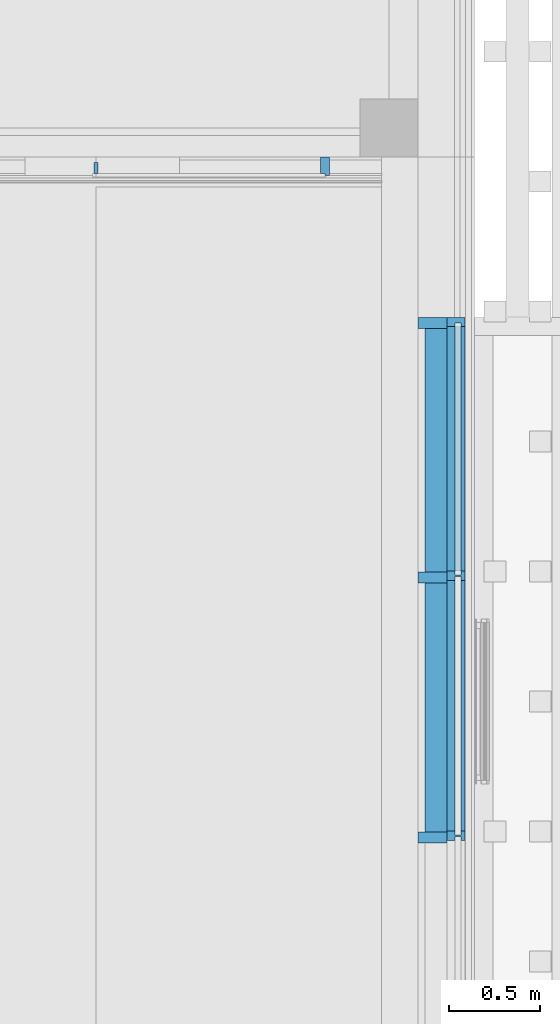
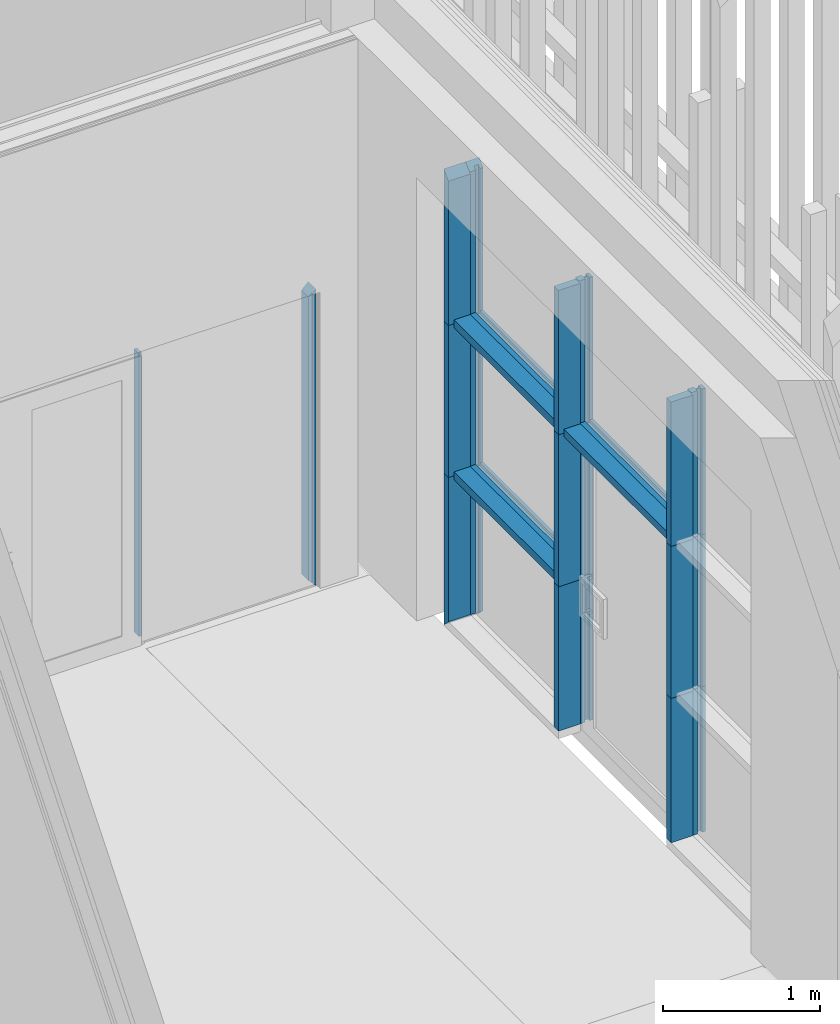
# One storey, part 37 of 260: 26 members, 3 elements without a shape of their own.
"""IFC2X3 building model written with IfcOpenShell, lengths in millimetres."""

from ifc_helpers import new_model, entity, si_unit, converted_unit, derived_unit, money_unit, direction, frame, origin_with_axes, place, context, subcontext, project, spatial, faceted_brep, source, transform, mapped, material, type_object, element, aggregate, save


model = new_model("IFC2X3")

# Units and contexts
model_context = context("Model", 3, precision=0.01, world=origin_with_axes(), true_north=direction((0.0, 1.0)))
body_context = subcontext(model_context, "Body", "Model", "MODEL_VIEW")
ifc_project = project(units=[si_unit("LENGTHUNIT", "METRE", prefix="MILLI"), si_unit("AREAUNIT", "SQUARE_METRE"), si_unit("VOLUMEUNIT", "CUBIC_METRE"), converted_unit("PLANEANGLEUNIT", "DEGREE", entity("IfcPlaneAngleMeasure", 0.0174532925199), si_unit("PLANEANGLEUNIT", "RADIAN"), dimensions=[0, 0, 0, 0, 0, 0, 0]), money_unit("EUR"), converted_unit("TIMEUNIT", "Year", entity("IfcTimeMeasure", 31556926.0), si_unit("TIMEUNIT", "SECOND"), dimensions=[0, 0, 1, 0, 0, 0, 0]), si_unit("MASSUNIT", "GRAM", prefix="KILO"), si_unit("THERMODYNAMICTEMPERATUREUNIT", "DEGREE_CELSIUS"), si_unit("LUMINOUSINTENSITYUNIT", "LUMEN"), si_unit("ENERGYUNIT", "JOULE", prefix="MEGA"), derived_unit("THERMALCONDUCTANCEUNIT", [(si_unit("POWERUNIT", "WATT"), 1), (si_unit("LENGTHUNIT", "METRE"), -1), (si_unit("THERMODYNAMICTEMPERATUREUNIT", "KELVIN"), -1)]), derived_unit("SPECIFICHEATCAPACITYUNIT", [(si_unit("ENERGYUNIT", "JOULE"), 1), (si_unit("MASSUNIT", "GRAM", prefix="KILO"), -1), (si_unit("THERMODYNAMICTEMPERATUREUNIT", "KELVIN"), -1)]), derived_unit("MASSDENSITYUNIT", [(si_unit("MASSUNIT", "GRAM", prefix="KILO"), 1), (si_unit("VOLUMEUNIT", "CUBIC_METRE"), -1)])], contexts=[model_context])

# Site, building, storey
site_placement = place(None, origin_with_axes())
site = spatial("IfcSite", under=ifc_project, at=site_placement, Name="Kolde pst 67a", CompositionType="ELEMENT")
building_placement = place(site_placement, origin_with_axes())
building = spatial("IfcBuilding", under=site, at=building_placement, Name="Riigigümnaasium", CompositionType="ELEMENT")
storey_placement = place(building_placement, origin_with_axes())
storey = spatial("IfcBuildingStorey", under=building, at=storey_placement, Name="1. korrus", CompositionType="ELEMENT", Elevation=0.0)

# Curtain wall, members
curtain_wall_type = type_object("IfcCurtainWallType", Name="Curtain Wall Type", PredefinedType="NOTDEFINED")
curtain_wall_1_placement = place(storey_placement, frame((36659.99923, 65497.2568144, -5.3341346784e-05), z_axis=(0.0, 0.0, 1.0), x_axis=(1.0, 0.0, 0.0)))
curtain_wall_1 = element("IfcCurtainWall", 1, at=curtain_wall_1_placement, inside=storey, type_object=curtain_wall_type, Name="KLAASFASSAAD")
ifc_material_1 = material(Name="_METALL - alumiinium")
member_type_1 = type_object("IfcMemberType", Name="Transom Frame 50 x 100", PredefinedType="MEMBER")
shared_shape_1 = source(origin_with_axes(), body_context, "Body", "Brep", [
    faceted_brep([(5.0, -16.5, 1405.0), (5.0, 16.5, 1405.0), (25.0, 16.5, 1405.0), (25.0, 40.0, 1405.0), (-25.0, 40.0, 1405.0), (-25.0, 16.5, 1405.0), (-5.0, 16.5, 1405.0), (-5.0, -16.5, 1405.0), (-25.0, -16.5, 1405.0), (-25.0, -60.0, 1405.0), (25.0, -60.0, 1405.0), (25.0, -16.5, 1405.0), (5.0, -16.5, 25.0), (5.0, 16.5, 25.0), (25.0, 16.5, 25.0), (25.0, 40.0, 25.0), (-25.0, 40.0, 25.0), (-25.0, 16.5, 25.0), (-5.0, 16.5, 25.0), (-5.0, -16.5, 25.0), (-25.0, -16.5, 25.0), (-25.0, -60.0, 25.0), (25.0, -60.0, 25.0), (25.0, -16.5, 25.0)], [[[0, 1, 2, 3, 4, 5, 6, 7, 8, 9, 10, 11]], [[0, 12, 13, 1]], [[1, 13, 14, 2]], [[14, 15, 3, 2]], [[4, 3, 15, 16]], [[17, 5, 4, 16]], [[5, 17, 18, 6]], [[7, 6, 18, 19]], [[8, 7, 19, 20]], [[8, 20, 21, 9]], [[10, 9, 21, 22]], [[11, 10, 22, 23]], [[11, 23, 12, 0]], [[13, 12, 23, 22, 21, 20, 19, 18, 17, 16, 15, 14]]]),
])
member_1_placement = place(curtain_wall_1_placement, frame((0.0, -710.2233959, 2360.00005334), z_axis=(0.0, -1.0, 0.0), x_axis=(0.0, 0.0, 1.0)))
member_1 = element("IfcMember", 2, at=member_1_placement, type_object=member_type_1, material=ifc_material_1, Name="RF RAAM HOR-404", ObjectType="MEMBER", context=body_context, shape_type="MappedRepresentation", body=[
    mapped(shared_shape_1, transform((0.0, 0.0, 0.0), x_axis=(-1.0, 0.0, 0.0), y_axis=(0.0, -1.0, 0.0), z_axis=(0.0, 0.0, 1.0))),
])
member_type_2 = type_object("IfcMemberType", Name="Mullion Frame 50 x 100", PredefinedType="MEMBER")
shared_shape_2 = source(origin_with_axes(), body_context, "Body", "Brep", [
    faceted_brep([(5.0, -16.5, 1180.00005334), (5.0, 16.5, 1180.00005334), (25.0, 16.5, 1180.00005334), (25.0, 40.0, 1180.00005334), (-25.0, 40.0, 1180.00005334), (-25.0, 16.5, 1180.00005334), (-5.0, 16.5, 1180.00005334), (-5.0, -16.5, 1180.00005334), (-25.0, -16.5, 1180.00005334), (-25.0, -60.0, 1180.00005334), (25.0, -60.0, 1180.00005334), (25.0, -16.5, 1180.00005334), (5.0, -16.5, 50.0), (5.0, 16.5, 50.0), (25.0, 16.5, 50.0), (25.0, 40.0, 50.0), (-25.0, 40.0, 50.0), (-25.0, 16.5, 50.0), (-5.0, 16.5, 50.0), (-5.0, -16.5, 50.0), (-25.0, -16.5, 50.0), (-25.0, -60.0, 50.0), (25.0, -60.0, 50.0), (25.0, -16.5, 50.0)], [[[0, 1, 2, 3, 4, 5, 6, 7, 8, 9, 10, 11]], [[0, 12, 13, 1]], [[1, 13, 14, 2]], [[14, 15, 3, 2]], [[4, 3, 15, 16]], [[17, 5, 4, 16]], [[5, 17, 18, 6]], [[7, 6, 18, 19]], [[8, 7, 19, 20]], [[8, 20, 21, 9]], [[10, 9, 21, 22]], [[11, 10, 22, 23]], [[11, 23, 12, 0]], [[13, 12, 23, 22, 21, 20, 19, 18, 17, 16, 15, 14]]]),
])
member_2_placement = place(curtain_wall_1_placement, frame((0.0, -710.2233959, 0.0), z_axis=(0.0, 0.0, 1.0), x_axis=(0.0, 1.0, 0.0)))
member_2 = element("IfcMember", 3, at=member_2_placement, type_object=member_type_2, material=ifc_material_1, Name="RF RAAM VERT-470", ObjectType="MEMBER", context=body_context, shape_type="MappedRepresentation", body=[
    mapped(shared_shape_2, transform((0.0, 0.0, 0.0), x_axis=(-1.0, 0.0, 0.0), y_axis=(0.0, -1.0, 0.0), z_axis=(0.0, 0.0, 1.0))),
])
member_3_placement = place(curtain_wall_1_placement, frame((0.0, -2140.2233959, 0.0), z_axis=(0.0, 0.0, 1.0), x_axis=(0.0, 1.0, 0.0)))
member_3 = element("IfcMember", 4, at=member_3_placement, type_object=member_type_2, material=ifc_material_1, Name="RF RAAM VERT-470", ObjectType="MEMBER", context=body_context, shape_type="MappedRepresentation", body=[
    mapped(shared_shape_2, transform((0.0, 0.0, 0.0), x_axis=(-1.0, 0.0, 0.0), y_axis=(0.0, -1.0, 0.0), z_axis=(0.0, 0.0, 1.0))),
])
shared_shape_3 = source(origin_with_axes(), body_context, "Body", "Brep", [
    faceted_brep([(5.0, -16.5, 1395.4467918), (5.0, 16.5, 1395.4467918), (25.0, 16.5, 1395.4467918), (25.0, 40.0, 1395.4467918), (-25.0, 40.0, 1395.4467918), (-25.0, 16.5, 1395.4467918), (-5.0, 16.5, 1395.4467918), (-5.0, -16.5, 1395.4467918), (-25.0, -16.5, 1395.4467918), (-25.0, -60.0, 1395.4467918), (25.0, -60.0, 1395.4467918), (25.0, -16.5, 1395.4467918), (5.0, -16.5, 50.0), (5.0, 16.5, 50.0), (25.0, 16.5, 50.0), (25.0, 40.0, 50.0), (-25.0, 40.0, 50.0), (-25.0, 16.5, 50.0), (-5.0, 16.5, 50.0), (-5.0, -16.5, 50.0), (-25.0, -16.5, 50.0), (-25.0, -60.0, 50.0), (25.0, -60.0, 50.0), (25.0, -16.5, 50.0)], [[[0, 1, 2, 3, 4, 5, 6, 7, 8, 9, 10, 11]], [[0, 12, 13, 1]], [[1, 13, 14, 2]], [[14, 15, 3, 2]], [[4, 3, 15, 16]], [[17, 5, 4, 16]], [[5, 17, 18, 6]], [[7, 6, 18, 19]], [[8, 7, 19, 20]], [[8, 20, 21, 9]], [[10, 9, 21, 22]], [[11, 10, 22, 23]], [[11, 23, 12, 0]], [[13, 12, 23, 22, 21, 20, 19, 18, 17, 16, 15, 14]]]),
])
member_4_placement = place(curtain_wall_1_placement, frame((0.0, 710.2233959, 1180.00005334), z_axis=(0.0, -1.0, 0.0), x_axis=(0.0, 0.0, 1.0)))
member_4 = element("IfcMember", 5, at=member_4_placement, type_object=member_type_1, material=ifc_material_1, Name="RF RAAM HOR-404", ObjectType="MEMBER", context=body_context, shape_type="MappedRepresentation", body=[
    mapped(shared_shape_3, transform((0.0, 0.0, 0.0), x_axis=(-1.0, 0.0, 0.0), y_axis=(0.0, -1.0, 0.0), z_axis=(0.0, 0.0, 1.0))),
])
member_5_placement = place(curtain_wall_1_placement, frame((0.0, 710.2233959, 2360.00005334), z_axis=(0.0, -1.0, 0.0), x_axis=(0.0, 0.0, 1.0)))
member_5 = element("IfcMember", 6, at=member_5_placement, type_object=member_type_1, material=ifc_material_1, Name="RF RAAM HOR-404", ObjectType="MEMBER", context=body_context, shape_type="MappedRepresentation", body=[
    mapped(shared_shape_3, transform((0.0, 0.0, 0.0), x_axis=(-1.0, 0.0, 0.0), y_axis=(0.0, -1.0, 0.0), z_axis=(0.0, 0.0, 1.0))),
])
shared_shape_4 = source(origin_with_axes(), body_context, "Body", "Brep", [
    faceted_brep([(5.0, -16.5, 1180.0), (5.0, 16.5, 1180.0), (25.0, 16.5, 1180.0), (25.0, 40.0, 1180.0), (-25.0, 40.0, 1180.0), (-25.0, 16.5, 1180.0), (-5.0, 16.5, 1180.0), (-5.0, -16.5, 1180.0), (-25.0, -16.5, 1180.0), (-25.0, -60.0, 1180.0), (25.0, -60.0, 1180.0), (25.0, -16.5, 1180.0), (5.0, -16.5, 0.0), (5.0, 16.5, 0.0), (25.0, 16.5, 0.0), (25.0, 40.0, 0.0), (-25.0, 40.0, 0.0), (-25.0, 16.5, 0.0), (-5.0, 16.5, 0.0), (-5.0, -16.5, 0.0), (-25.0, -16.5, 0.0), (-25.0, -60.0, 0.0), (25.0, -60.0, 0.0), (25.0, -16.5, 0.0)], [[[0, 1, 2, 3, 4, 5, 6, 7, 8, 9, 10, 11]], [[0, 12, 13, 1]], [[1, 13, 14, 2]], [[14, 15, 3, 2]], [[3, 15, 16, 4]], [[17, 5, 4, 16]], [[5, 17, 18, 6]], [[7, 6, 18, 19]], [[8, 7, 19, 20]], [[8, 20, 21, 9]], [[9, 21, 22, 10]], [[11, 10, 22, 23]], [[11, 23, 12, 0]], [[13, 12, 23, 22, 21, 20, 19, 18, 17, 16, 15, 14]]]),
])
member_6_placement = place(curtain_wall_1_placement, frame((0.0, -710.2233959, 1180.00005334), z_axis=(0.0, 0.0, 1.0), x_axis=(0.0, 1.0, 0.0)))
member_6 = element("IfcMember", 7, at=member_6_placement, type_object=member_type_2, material=ifc_material_1, Name="RF RAAM VERT-470", ObjectType="MEMBER", context=body_context, shape_type="MappedRepresentation", body=[
    mapped(shared_shape_4, transform((0.0, 0.0, 0.0), x_axis=(-1.0, 0.0, 0.0), y_axis=(0.0, -1.0, 0.0), z_axis=(0.0, 0.0, 1.0))),
])
member_7_placement = place(curtain_wall_1_placement, frame((0.0, -2140.2233959, 1180.00005334), z_axis=(0.0, 0.0, 1.0), x_axis=(0.0, 1.0, 0.0)))
member_7 = element("IfcMember", 8, at=member_7_placement, type_object=member_type_2, material=ifc_material_1, Name="RF RAAM VERT-470", ObjectType="MEMBER", context=body_context, shape_type="MappedRepresentation", body=[
    mapped(shared_shape_4, transform((0.0, 0.0, 0.0), x_axis=(-1.0, 0.0, 0.0), y_axis=(0.0, -1.0, 0.0), z_axis=(0.0, 0.0, 1.0))),
])
member_type_3 = type_object("IfcMemberType", Name="Boundary Frame 50 x 100", PredefinedType="MEMBER")
shared_shape_5 = source(origin_with_axes(), body_context, "Body", "Brep", [
    faceted_brep([(-30.0, -16.5, 1180.00018269), (-50.0, -16.5, 1180.00018269), (-50.0, -60.0, 1180.00018269), (0.0, -60.0, 1180.00018269), (0.0, 40.0, 1180.00018269), (-50.0, 40.0, 1180.00018269), (-50.0, 16.5, 1180.00018269), (-30.0, 16.5, 1180.00018269), (-30.0, -16.5, 30.0), (-50.0, -16.5, 50.0), (-50.0, -60.0, 50.0), (0.0, -60.0, 0.0), (0.0, 40.0, 0.0), (-50.0, 40.0, 50.0), (-50.0, 16.5, 50.0), (-30.0, 16.5, 30.0)], [[[0, 1, 2, 3, 4, 5, 6, 7]], [[0, 8, 9, 1]], [[9, 10, 2, 1]], [[2, 10, 11, 3]], [[3, 11, 12, 4]], [[4, 12, 13, 5]], [[6, 5, 13, 14]], [[14, 15, 7, 6]], [[7, 15, 8, 0]], [[8, 15, 14, 13, 12, 11, 10, 9]]]),
])
member_8_placement = place(curtain_wall_1_placement, frame((0.0, 710.2233959, 3540.00023603), z_axis=(0.0, 0.0, -1.0), x_axis=(0.0, -1.0, 0.0)))
member_8 = element("IfcMember", 9, at=member_8_placement, type_object=member_type_3, material=ifc_material_1, Name="RF RAAM SERV-761", ObjectType="MEMBER", context=body_context, shape_type="MappedRepresentation", body=[
    mapped(shared_shape_5, transform((0.0, 0.0, 0.0), x_axis=(-1.0, 0.0, 0.0), y_axis=(0.0, -1.0, 0.0), z_axis=(0.0, 0.0, 1.0))),
])
shared_shape_6 = source(origin_with_axes(), body_context, "Body", "Brep", [
    faceted_brep([(5.0, -16.5, 1130.00018269), (5.0, 16.5, 1130.00018269), (25.0, 16.5, 1130.00018269), (25.0, 40.0, 1130.00018269), (-25.0, 40.0, 1130.00018269), (-25.0, 16.5, 1130.00018269), (-5.0, 16.5, 1130.00018269), (-5.0, -16.5, 1130.00018269), (-25.0, -16.5, 1130.00018269), (-25.0, -60.0, 1130.00018269), (25.0, -60.0, 1130.00018269), (25.0, -16.5, 1130.00018269), (5.0, -16.5, 0.0), (5.0, 16.5, 0.0), (25.0, 16.5, 0.0), (25.0, 40.0, 0.0), (-25.0, 40.0, 0.0), (-25.0, 16.5, 0.0), (-5.0, 16.5, 0.0), (-5.0, -16.5, 0.0), (-25.0, -16.5, 0.0), (-25.0, -60.0, 0.0), (25.0, -60.0, 0.0), (25.0, -16.5, 0.0)], [[[0, 1, 2, 3, 4, 5, 6, 7, 8, 9, 10, 11]], [[0, 12, 13, 1]], [[1, 13, 14, 2]], [[14, 15, 3, 2]], [[3, 15, 16, 4]], [[17, 5, 4, 16]], [[5, 17, 18, 6]], [[7, 6, 18, 19]], [[8, 7, 19, 20]], [[8, 20, 21, 9]], [[9, 21, 22, 10]], [[11, 10, 22, 23]], [[11, 23, 12, 0]], [[13, 12, 23, 22, 21, 20, 19, 18, 17, 16, 15, 14]]]),
])
member_9_placement = place(curtain_wall_1_placement, frame((0.0, -710.2233959, 2360.00005334), z_axis=(0.0, 0.0, 1.0), x_axis=(0.0, 1.0, 0.0)))
member_9 = element("IfcMember", 10, at=member_9_placement, type_object=member_type_2, material=ifc_material_1, Name="RF RAAM VERT-488", ObjectType="MEMBER", context=body_context, shape_type="MappedRepresentation", body=[
    mapped(shared_shape_6, transform((0.0, 0.0, 0.0), x_axis=(-1.0, 0.0, 0.0), y_axis=(0.0, -1.0, 0.0), z_axis=(0.0, 0.0, 1.0))),
])
member_10_placement = place(curtain_wall_1_placement, frame((0.0, -2140.2233959, 2360.00005334), z_axis=(0.0, 0.0, 1.0), x_axis=(0.0, 1.0, 0.0)))
member_10 = element("IfcMember", 11, at=member_10_placement, type_object=member_type_2, material=ifc_material_1, Name="RF RAAM VERT-489", ObjectType="MEMBER", context=body_context, shape_type="MappedRepresentation", body=[
    mapped(shared_shape_6, transform((0.0, 0.0, 0.0), x_axis=(-1.0, 0.0, 0.0), y_axis=(0.0, -1.0, 0.0), z_axis=(0.0, 0.0, 1.0))),
])
shared_shape_7 = source(origin_with_axes(), body_context, "Body", "Brep", [
    faceted_brep([(-30.0, -16.5, 1150.00005334), (-50.0, -16.5, 1130.00005334), (-50.0, -60.0, 1130.00005334), (0.0, -60.0, 1180.00005334), (0.0, 40.0, 1180.00005334), (-50.0, 40.0, 1130.00005334), (-50.0, 16.5, 1130.00005334), (-30.0, 16.5, 1150.00005334), (-30.0, -16.5, 0.0), (-50.0, -16.5, 0.0), (-50.0, -60.0, 0.0), (0.0, -60.0, 0.0), (0.0, 40.0, 0.0), (-50.0, 40.0, 0.0), (-50.0, 16.5, 0.0), (-30.0, 16.5, 0.0)], [[[0, 1, 2, 3, 4, 5, 6, 7]], [[0, 8, 9, 1]], [[9, 10, 2, 1]], [[10, 11, 3, 2]], [[11, 12, 4, 3]], [[12, 13, 5, 4]], [[6, 5, 13, 14]], [[14, 15, 7, 6]], [[7, 15, 8, 0]], [[8, 15, 14, 13, 12, 11, 10, 9]]]),
])
member_11_placement = place(curtain_wall_1_placement, frame((0.0, 710.2233959, 1180.00005334), z_axis=(0.0, 0.0, -1.0), x_axis=(0.0, -1.0, 0.0)))
member_11 = element("IfcMember", 12, at=member_11_placement, type_object=member_type_3, material=ifc_material_1, Name="RF RAAM SERV-763", ObjectType="MEMBER", context=body_context, shape_type="MappedRepresentation", body=[
    mapped(shared_shape_7, transform((0.0, 0.0, 0.0), x_axis=(-1.0, 0.0, 0.0), y_axis=(0.0, -1.0, 0.0), z_axis=(0.0, 0.0, 1.0))),
])
shared_shape_8 = source(origin_with_axes(), body_context, "Body", "Brep", [
    faceted_brep([(-30.0, -16.5, 1180.0), (-50.0, -16.5, 1180.0), (-50.0, -60.0, 1180.0), (0.0, -60.0, 1180.0), (0.0, 40.0, 1180.0), (-50.0, 40.0, 1180.0), (-50.0, 16.5, 1180.0), (-30.0, 16.5, 1180.0), (-30.0, -16.5, 0.0), (-50.0, -16.5, 0.0), (-50.0, -60.0, 0.0), (0.0, -60.0, 0.0), (0.0, 40.0, 0.0), (-50.0, 40.0, 0.0), (-50.0, 16.5, 0.0), (-30.0, 16.5, 0.0)], [[[0, 1, 2, 3, 4, 5, 6, 7]], [[0, 8, 9, 1]], [[9, 10, 2, 1]], [[10, 11, 3, 2]], [[11, 12, 4, 3]], [[12, 13, 5, 4]], [[6, 5, 13, 14]], [[14, 15, 7, 6]], [[7, 15, 8, 0]], [[8, 15, 14, 13, 12, 11, 10, 9]]]),
])
member_12_placement = place(curtain_wall_1_placement, frame((0.0, 710.2233959, 2360.00005334), z_axis=(0.0, 0.0, -1.0), x_axis=(0.0, -1.0, 0.0)))
member_12 = element("IfcMember", 13, at=member_12_placement, type_object=member_type_3, material=ifc_material_1, Name="RF RAAM SERV-762", ObjectType="MEMBER", context=body_context, shape_type="MappedRepresentation", body=[
    mapped(shared_shape_8, transform((0.0, 0.0, 0.0), x_axis=(-1.0, 0.0, 0.0), y_axis=(0.0, -1.0, 0.0), z_axis=(0.0, 0.0, 1.0))),
])
aggregate(curtain_wall_1, [member_2, member_3, member_4, member_6, member_7, member_5, member_8, member_1, member_9, member_10, member_11, member_12])

curtain_wall_2_placement = place(storey_placement, frame((33792.224013, 66989.9967931, 0.0), z_axis=(0.0, 0.0, 1.0), x_axis=(1.0, 0.0, 0.0)))
curtain_wall_2 = element("IfcCurtainWall", 14, at=curtain_wall_2_placement, inside=storey, type_object=curtain_wall_type, Name="KLAASSEIN")
ifc_material_2 = material(Name="_GENEERILINE MATERJAL")
shared_shape_9 = source(origin_with_axes(), body_context, "Body", "Brep", [
    faceted_brep([(50.0, -10.0, 50.0), (50.0, -10.0, 2250.0), (50.0, -100.0, 2250.0), (50.0, -100.0, 50.0), (25.0, -10.0, 2275.0), (25.0, -10.0, 25.0), (25.0, 0.0, 2275.0), (0.0, 0.0, 2300.0), (0.0, -100.0, 2300.0), (0.0, -100.0, 0.0), (0.0, 0.0, 0.0), (25.0, 0.0, 25.0)], [[[0, 1, 2, 3]], [[4, 1, 0, 5]], [[4, 6, 7, 8, 2, 1]], [[2, 8, 9, 3]], [[5, 0, 3, 9, 10, 11]], [[11, 6, 4, 5]], [[6, 11, 10, 7]], [[8, 7, 10, 9]]]),
])
member_13_placement = place(curtain_wall_2_placement, frame((2161.44449505, 0.0, 0.0), z_axis=(0.0, 0.0, 1.0), x_axis=(-1.0, 0.0, 0.0)))
member_13 = element("IfcMember", 15, at=member_13_placement, type_object=member_type_3, material=ifc_material_2, Name="RF RAAM SERV-136", ObjectType="MEMBER", context=body_context, shape_type="MappedRepresentation", body=[
    mapped(shared_shape_9, transform((0.0, 0.0, 0.0))),
])
member_type_4 = type_object("IfcMemberType", Name="Mullion Frame 20 x 70", PredefinedType="MEMBER")
shared_shape_10 = source(origin_with_axes(), body_context, "Body", "Brep", [
    faceted_brep([(0.0, -10.0, 50.0), (-10.0, -10.0, 50.0), (-10.0, -10.0, 2250.0), (0.0, -10.0, 2250.0), (10.0, -10.0, 2250.0), (10.0, -10.0, 50.0), (10.0, -70.0, 50.0), (-10.0, -70.0, 50.0), (-10.0, -70.0, 2250.0), (10.0, -70.0, 2250.0)], [[[0, 1, 2, 3, 4, 5]], [[1, 0, 5, 6, 7]], [[2, 1, 7, 8]], [[3, 2, 8, 9, 4]], [[4, 9, 6, 5]], [[8, 7, 6, 9]]]),
])
member_14_placement = place(curtain_wall_2_placement, frame((876.835335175, 0.0, 0.0), z_axis=(0.0, 0.0, 1.0), x_axis=(-1.0, 0.0, 0.0)))
member_14 = element("IfcMember", 16, at=member_14_placement, type_object=member_type_4, material=ifc_material_2, Name="RF RAAM VERT-345", ObjectType="MEMBER", context=body_context, shape_type="MappedRepresentation", body=[
    mapped(shared_shape_10, transform((0.0, 0.0, 0.0))),
])
aggregate(curtain_wall_2, [member_13, member_14])

curtain_wall_3_placement = place(storey_placement, frame((36599.99923, 65492.6817221, -5.3341346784e-05), z_axis=(0.0, 0.0, 1.0), x_axis=(1.0, 0.0, 0.0)))
curtain_wall_3 = element("IfcCurtainWall", 17, at=curtain_wall_3_placement, inside=storey, type_object=curtain_wall_type, Name="Klaasfassaadi puitkarkass")
ifc_material_3 = material(Name="_KANDETARIND - liimpuit vastavalt EK osale")
member_type_5 = type_object("IfcMemberType", Name="Transom Frame 60 x 120", PredefinedType="MEMBER")
shared_shape_11 = source(origin_with_axes(), body_context, "Body", "Brep", [
    faceted_brep([(-30.0, 0.0, 30.0), (-30.0, -120.0, 30.0), (-30.0, -120.0, 1400.0), (-30.0, 0.0, 1400.0), (30.0, 0.0, 30.0), (30.0, -120.0, 30.0), (30.0, -120.0, 1400.0), (30.0, 0.0, 1400.0)], [[[0, 1, 2, 3]], [[1, 0, 4, 5]], [[1, 5, 6, 2]], [[2, 6, 7, 3]], [[4, 0, 3, 7]], [[5, 4, 7, 6]]]),
])
member_15_placement = place(curtain_wall_3_placement, frame((0.0, -714.798473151, 2360.00005334), z_axis=(0.0, -1.0, 0.0), x_axis=(0.0, 0.0, 1.0)))
member_15 = element("IfcMember", 18, at=member_15_placement, type_object=member_type_5, material=ifc_material_3, Name="RF RAAM HOR-299", ObjectType="MEMBER", context=body_context, shape_type="MappedRepresentation", body=[
    mapped(shared_shape_11, transform((0.0, 0.0, 0.0), x_axis=(-1.0, 0.0, 0.0), y_axis=(0.0, -1.0, 0.0), z_axis=(0.0, 0.0, 1.0))),
])
member_type_6 = type_object("IfcMemberType", Name="Mullion Frame 60 x 160", PredefinedType="MEMBER")
shared_shape_12 = source(origin_with_axes(), body_context, "Body", "Brep", [
    faceted_brep([(-30.0, 0.0, 60.0), (-30.0, -160.0, 60.0), (-30.0, -160.0, 1180.00005334), (-30.0, 0.0, 1180.00005334), (30.0, 0.0, 60.0), (30.0, -160.0, 60.0), (30.0, -160.0, 1180.00005334), (30.0, 0.0, 1180.00005334)], [[[0, 1, 2, 3]], [[1, 0, 4, 5]], [[1, 5, 6, 2]], [[2, 6, 7, 3]], [[4, 0, 3, 7]], [[5, 4, 7, 6]]]),
])
member_16_placement = place(curtain_wall_3_placement, frame((0.0, -714.798473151, 0.0), z_axis=(0.0, 0.0, 1.0), x_axis=(0.0, 1.0, 0.0)))
member_16 = element("IfcMember", 19, at=member_16_placement, type_object=member_type_6, material=ifc_material_3, Name="RF RAAM VERT-399", ObjectType="MEMBER", context=body_context, shape_type="MappedRepresentation", body=[
    mapped(shared_shape_12, transform((0.0, 0.0, 0.0), x_axis=(-1.0, 0.0, 0.0), y_axis=(0.0, -1.0, 0.0), z_axis=(0.0, 0.0, 1.0))),
])
member_17_placement = place(curtain_wall_3_placement, frame((0.0, -2144.79847315, 0.0), z_axis=(0.0, 0.0, 1.0), x_axis=(0.0, 1.0, 0.0)))
member_17 = element("IfcMember", 20, at=member_17_placement, type_object=member_type_6, material=ifc_material_3, Name="RF RAAM VERT-400", ObjectType="MEMBER", context=body_context, shape_type="MappedRepresentation", body=[
    mapped(shared_shape_12, transform((0.0, 0.0, 0.0), x_axis=(-1.0, 0.0, 0.0), y_axis=(0.0, -1.0, 0.0), z_axis=(0.0, 0.0, 1.0))),
])
member_type_7 = type_object("IfcMemberType", Name="Boundary Frame 60 x 160", PredefinedType="MEMBER")
shared_shape_13 = source(origin_with_axes(), body_context, "Body", "Brep", [
    faceted_brep([(-60.0, -160.0, 0.0), (-60.0, -160.0, 1180.0), (-60.0, 0.0, 1180.0), (-60.0, 0.0, 0.0), (0.0, -160.0, 0.0), (0.0, -160.0, 1180.0), (0.0, 0.0, 1180.0), (0.0, 0.0, 0.0)], [[[0, 1, 2, 3]], [[4, 5, 1, 0]], [[1, 5, 6, 2]], [[3, 2, 6, 7]], [[0, 3, 7, 4]], [[7, 6, 5, 4]]]),
])
member_18_placement = place(curtain_wall_3_placement, frame((0.0, 714.798473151, 2360.00005334), z_axis=(0.0, 0.0, -1.0), x_axis=(0.0, -1.0, 0.0)))
member_18 = element("IfcMember", 21, at=member_18_placement, type_object=member_type_7, material=ifc_material_3, Name="RF RAAM SERV-648", ObjectType="MEMBER", context=body_context, shape_type="MappedRepresentation", body=[
    mapped(shared_shape_13, transform((0.0, 0.0, 0.0), x_axis=(-1.0, 0.0, 0.0), y_axis=(0.0, -1.0, 0.0), z_axis=(0.0, 0.0, 1.0))),
])
shared_shape_14 = source(origin_with_axes(), body_context, "Body", "Brep", [
    faceted_brep([(-30.0, 0.0, 60.0), (-30.0, -120.0, 60.0), (-30.0, -120.0, 1399.5969463), (-30.0, 0.0, 1399.5969463), (30.0, 0.0, 60.0), (30.0, -120.0, 60.0), (30.0, -120.0, 1399.5969463), (30.0, 0.0, 1399.5969463)], [[[0, 1, 2, 3]], [[1, 0, 4, 5]], [[1, 5, 6, 2]], [[2, 6, 7, 3]], [[4, 0, 3, 7]], [[5, 4, 7, 6]]]),
])
member_19_placement = place(curtain_wall_3_placement, frame((0.0, 714.798473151, 1180.00005334), z_axis=(0.0, -1.0, 0.0), x_axis=(0.0, 0.0, 1.0)))
member_19 = element("IfcMember", 22, at=member_19_placement, type_object=member_type_5, material=ifc_material_3, Name="RF RAAM HOR-294", ObjectType="MEMBER", context=body_context, shape_type="MappedRepresentation", body=[
    mapped(shared_shape_14, transform((0.0, 0.0, 0.0), x_axis=(-1.0, 0.0, 0.0), y_axis=(0.0, -1.0, 0.0), z_axis=(0.0, 0.0, 1.0))),
])
member_20_placement = place(curtain_wall_3_placement, frame((0.0, 714.798473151, 2360.00005334), z_axis=(0.0, -1.0, 0.0), x_axis=(0.0, 0.0, 1.0)))
member_20 = element("IfcMember", 23, at=member_20_placement, type_object=member_type_5, material=ifc_material_3, Name="RF RAAM HOR-298", ObjectType="MEMBER", context=body_context, shape_type="MappedRepresentation", body=[
    mapped(shared_shape_14, transform((0.0, 0.0, 0.0), x_axis=(-1.0, 0.0, 0.0), y_axis=(0.0, -1.0, 0.0), z_axis=(0.0, 0.0, 1.0))),
])
shared_shape_15 = source(origin_with_axes(), body_context, "Body", "Brep", [
    faceted_brep([(-30.0, -160.0, 0.0), (-30.0, -160.0, 1180.0), (-30.0, 0.0, 1180.0), (-30.0, 0.0, 0.0), (30.0, -160.0, 0.0), (30.0, -160.0, 1180.0), (30.0, 0.0, 1180.0), (30.0, 0.0, 0.0)], [[[0, 1, 2, 3]], [[4, 5, 1, 0]], [[1, 5, 6, 2]], [[3, 2, 6, 7]], [[0, 3, 7, 4]], [[7, 6, 5, 4]]]),
])
member_21_placement = place(curtain_wall_3_placement, frame((0.0, -714.798473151, 1180.00005334), z_axis=(0.0, 0.0, 1.0), x_axis=(0.0, 1.0, 0.0)))
member_21 = element("IfcMember", 24, at=member_21_placement, type_object=member_type_6, material=ifc_material_3, Name="RF RAAM VERT-402", ObjectType="MEMBER", context=body_context, shape_type="MappedRepresentation", body=[
    mapped(shared_shape_15, transform((0.0, 0.0, 0.0), x_axis=(-1.0, 0.0, 0.0), y_axis=(0.0, -1.0, 0.0), z_axis=(0.0, 0.0, 1.0))),
])
member_22_placement = place(curtain_wall_3_placement, frame((0.0, -2144.79847315, 1180.00005334), z_axis=(0.0, 0.0, 1.0), x_axis=(0.0, 1.0, 0.0)))
member_22 = element("IfcMember", 25, at=member_22_placement, type_object=member_type_6, material=ifc_material_3, Name="RF RAAM VERT-403", ObjectType="MEMBER", context=body_context, shape_type="MappedRepresentation", body=[
    mapped(shared_shape_15, transform((0.0, 0.0, 0.0), x_axis=(-1.0, 0.0, 0.0), y_axis=(0.0, -1.0, 0.0), z_axis=(0.0, 0.0, 1.0))),
])
shared_shape_16 = source(origin_with_axes(), body_context, "Body", "Brep", [
    faceted_brep([(-60.0, 0.0, 60.0), (-60.0, -160.0, 60.0), (-60.0, -160.0, 1180.00005334), (-60.0, 0.0, 1180.00005334), (0.0, 0.0, 0.0), (0.0, -160.0, 0.0), (0.0, -160.0, 1180.00005334), (0.0, 0.0, 1180.00005334)], [[[0, 1, 2, 3]], [[1, 0, 4, 5]], [[1, 5, 6, 2]], [[2, 6, 7, 3]], [[4, 0, 3, 7]], [[5, 4, 7, 6]]]),
])
member_23_placement = place(curtain_wall_3_placement, frame((0.0, 714.798494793, 3540.00029996), z_axis=(0.0, -1.83410310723e-08, -1.0), x_axis=(0.0, -1.0, 1.83410310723e-08)))
member_23 = element("IfcMember", 26, at=member_23_placement, type_object=member_type_7, material=ifc_material_3, Name="RF RAAM SERV-647", ObjectType="MEMBER", context=body_context, shape_type="MappedRepresentation", body=[
    mapped(shared_shape_16, transform((0.0, 0.0, 0.0), x_axis=(-1.0, 0.0, -1.83410311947e-08), y_axis=(0.0, -1.0, 0.0), z_axis=(-1.83410311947e-08, 0.0, 1.0))),
])
shared_shape_17 = source(origin_with_axes(), body_context, "Body", "Brep", [
    faceted_brep([(-60.0, -160.0, 0.0), (-60.0, -160.0, 1120.00005334), (-60.0, 0.0, 1120.00005334), (-60.0, 0.0, 0.0), (0.0, -160.0, 0.0), (0.0, -160.0, 1180.00005334), (0.0, 0.0, 1180.00005334), (0.0, 0.0, 0.0)], [[[0, 1, 2, 3]], [[4, 5, 1, 0]], [[1, 5, 6, 2]], [[3, 2, 6, 7]], [[0, 3, 7, 4]], [[7, 6, 5, 4]]]),
])
member_24_placement = place(curtain_wall_3_placement, frame((0.0, 714.798473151, 1180.00005334), z_axis=(0.0, 0.0, -1.0), x_axis=(0.0, -1.0, 0.0)))
member_24 = element("IfcMember", 27, at=member_24_placement, type_object=member_type_7, material=ifc_material_3, Name="RF RAAM SERV-649", ObjectType="MEMBER", context=body_context, shape_type="MappedRepresentation", body=[
    mapped(shared_shape_17, transform((0.0, 0.0, 0.0), x_axis=(-1.0, 0.0, 0.0), y_axis=(0.0, -1.0, 0.0), z_axis=(0.0, 0.0, 1.0))),
])
shared_shape_18 = source(origin_with_axes(), body_context, "Body", "Brep", [
    faceted_brep([(-30.0, -160.0, 0.0), (-30.0, -160.0, 1120.00024662), (-30.0, 0.0, 1120.00024662), (-30.0, 0.0, 0.0), (30.0, -160.0, 0.0), (30.0, -160.0, 1120.00024662), (30.0, 0.0, 1120.00024662), (30.0, 0.0, 0.0)], [[[0, 1, 2, 3]], [[4, 5, 1, 0]], [[1, 5, 6, 2]], [[3, 2, 6, 7]], [[0, 3, 7, 4]], [[7, 6, 5, 4]]]),
])
member_25_placement = place(curtain_wall_3_placement, frame((0.0, -714.798473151, 2360.00005334), z_axis=(0.0, 0.0, 1.0), x_axis=(0.0, 1.0, 0.0)))
member_25 = element("IfcMember", 28, at=member_25_placement, type_object=member_type_6, material=ifc_material_3, Name="RF RAAM VERT-474", ObjectType="MEMBER", context=body_context, shape_type="MappedRepresentation", body=[
    mapped(shared_shape_18, transform((0.0, 0.0, 0.0), x_axis=(-1.0, 0.0, 0.0), y_axis=(0.0, -1.0, 0.0), z_axis=(0.0, 0.0, 1.0))),
])
member_26_placement = place(curtain_wall_3_placement, frame((0.0, -2144.79847315, 2360.00005334), z_axis=(0.0, 0.0, 1.0), x_axis=(0.0, 1.0, 0.0)))
member_26 = element("IfcMember", 29, at=member_26_placement, type_object=member_type_6, material=ifc_material_3, Name="RF RAAM VERT-475", ObjectType="MEMBER", context=body_context, shape_type="MappedRepresentation", body=[
    mapped(shared_shape_18, transform((0.0, 0.0, 0.0), x_axis=(-1.0, 0.0, 0.0), y_axis=(0.0, -1.0, 0.0), z_axis=(0.0, 0.0, 1.0))),
])
aggregate(curtain_wall_3, [member_16, member_17, member_19, member_21, member_22, member_20, member_15, member_24, member_18, member_23, member_25, member_26])

save(model, "model.ifc")
